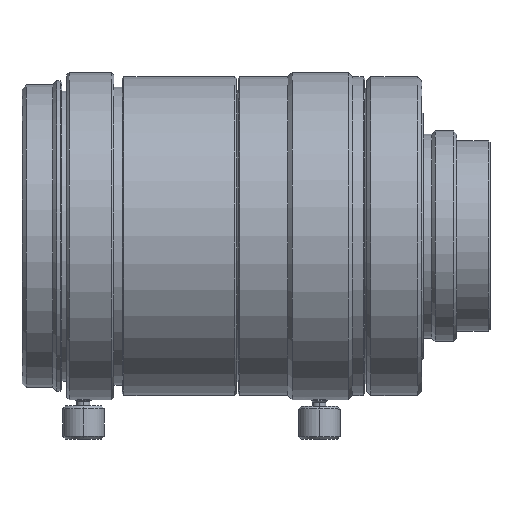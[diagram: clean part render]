
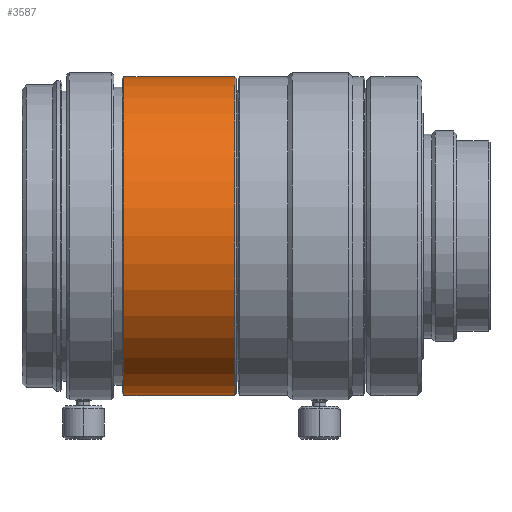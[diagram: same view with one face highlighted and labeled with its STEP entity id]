
A CAD part, top view. The second image highlights one B-rep face of the part: STEP entity #3587.
In plain terms, the highlighted cylindrical face has radius 19.25 mm (diameter 38.5 mm), a partial arc.
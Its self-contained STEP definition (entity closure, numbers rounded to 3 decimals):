
#296 = CARTESIAN_POINT ( 'NONE',  ( -53.7, 0., 0. ) ) ;
#377 = LINE ( 'NONE', #702, #1787 ) ;
#408 = VERTEX_POINT ( 'NONE', #1210 ) ;
#524 = EDGE_CURVE ( 'NONE', #1191, #3464, #1382, .T. ) ;
#559 = AXIS2_PLACEMENT_3D ( 'NONE', #2420, #1258, #1826 ) ;
#666 = DIRECTION ( 'NONE',  ( -1., 0., 0. ) ) ;
#702 = CARTESIAN_POINT ( 'NONE',  ( -53.72, 19.25, 0. ) ) ;
#799 = CARTESIAN_POINT ( 'NONE',  ( -53.7, -19.25, 0. ) ) ;
#877 = CARTESIAN_POINT ( 'NONE',  ( -53.72, -19.25, 0. ) ) ;
#906 = CYLINDRICAL_SURFACE ( 'NONE', #1668, 19.25 ) ;
#1054 = ORIENTED_EDGE ( 'NONE', *, *, #2450, .T. ) ;
#1191 = VERTEX_POINT ( 'NONE', #799 ) ;
#1210 = CARTESIAN_POINT ( 'NONE',  ( -40.3, 19.25, 0. ) ) ;
#1258 = DIRECTION ( 'NONE',  ( -1., 0., 0. ) ) ;
#1382 = CIRCLE ( 'NONE', #3509, 19.25 ) ;
#1417 = EDGE_CURVE ( 'NONE', #408, #3464, #377, .T. ) ;
#1449 = LINE ( 'NONE', #877, #2796 ) ;
#1533 = DIRECTION ( 'NONE',  ( 0., -1., 0. ) ) ;
#1600 = VERTEX_POINT ( 'NONE', #1761 ) ;
#1668 = AXIS2_PLACEMENT_3D ( 'NONE', #2637, #666, #1533 ) ;
#1706 = ORIENTED_EDGE ( 'NONE', *, *, #2344, .F. ) ;
#1722 = EDGE_LOOP ( 'NONE', ( #1054, #2897, #2059, #1706 ) ) ;
#1761 = CARTESIAN_POINT ( 'NONE',  ( -40.3, -19.25, 0. ) ) ;
#1787 = VECTOR ( 'NONE', #2717, 1000. ) ;
#1798 = DIRECTION ( 'NONE',  ( 0., -1., 0. ) ) ;
#1826 = DIRECTION ( 'NONE',  ( 0., -1., 0. ) ) ;
#1838 = FACE_OUTER_BOUND ( 'NONE', #1722, .T. ) ;
#2059 = ORIENTED_EDGE ( 'NONE', *, *, #524, .F. ) ;
#2190 = CIRCLE ( 'NONE', #559, 19.25 ) ;
#2255 = CARTESIAN_POINT ( 'NONE',  ( -53.7, 19.25, 0. ) ) ;
#2344 = EDGE_CURVE ( 'NONE', #1600, #1191, #1449, .T. ) ;
#2420 = CARTESIAN_POINT ( 'NONE',  ( -40.3, 0., 0. ) ) ;
#2450 = EDGE_CURVE ( 'NONE', #1600, #408, #2190, .T. ) ;
#2637 = CARTESIAN_POINT ( 'NONE',  ( -53.72, 0., 0. ) ) ;
#2717 = DIRECTION ( 'NONE',  ( -1., 0., 0. ) ) ;
#2796 = VECTOR ( 'NONE', #2901, 1000. ) ;
#2897 = ORIENTED_EDGE ( 'NONE', *, *, #1417, .T. ) ;
#2901 = DIRECTION ( 'NONE',  ( -1., 0., 0. ) ) ;
#2929 = DIRECTION ( 'NONE',  ( -1., 0., 0. ) ) ;
#3464 = VERTEX_POINT ( 'NONE', #2255 ) ;
#3509 = AXIS2_PLACEMENT_3D ( 'NONE', #296, #2929, #1798 ) ;
#3587 = ADVANCED_FACE ( 'NONE', ( #1838 ), #906, .T. ) ;
